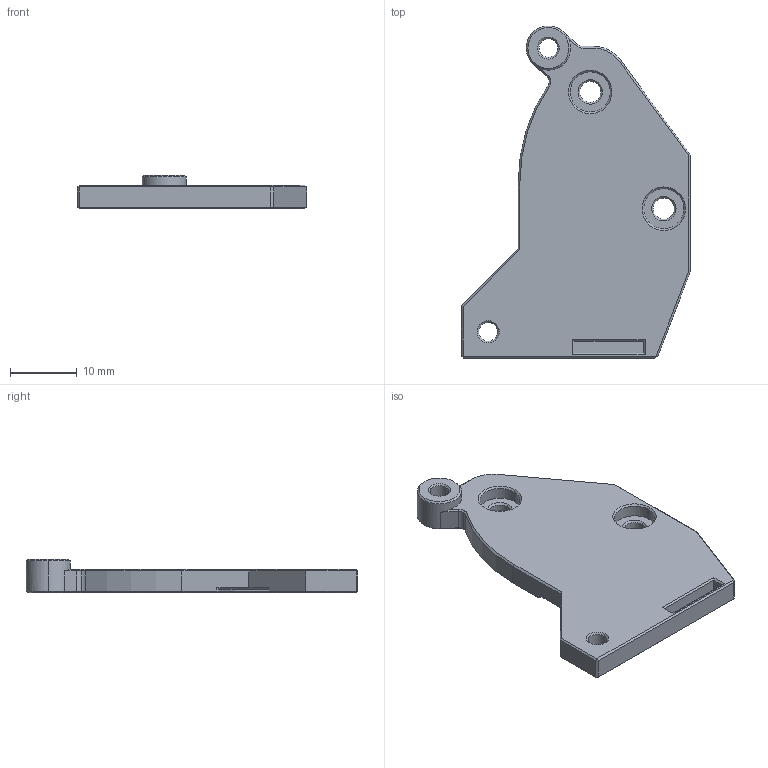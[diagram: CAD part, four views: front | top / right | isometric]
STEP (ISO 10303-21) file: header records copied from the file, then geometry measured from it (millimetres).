
FILE_DESCRIPTION (( 'STEP AP203' ), '1' );
FILE_NAME ('LGX-FF_5015 shroud mount.STEP', '2021-05-31T14:19:21', ( '' ), ( '' ), 'SwSTEP 2.0', 'SolidWorks 2021', '' );
FILE_SCHEMA (( 'CONFIG_CONTROL_DESIGN' ));
Length unit declared in the file: millimetre
Products named in the file (1): LGX-FF_5015 shroud mount
Bounding box: 34.25 x 49.6 x 5 mm (x, y, z)
Volume: 3786.5 mm3; surface area: 2964.2 mm2
Topology: 1 solids, 1 shells, 117 faces, 263 edges, 151 vertices
Faces by surface type: plane 65, cone 33, cylinder 19
Entity records: 3262 total; most frequent: DIRECTION 569, CARTESIAN_POINT 544, ORIENTED_EDGE 526, EDGE_CURVE 263, AXIS2_PLACEMENT_3D 192, LINE 185, VECTOR 185, VERTEX_POINT 151
